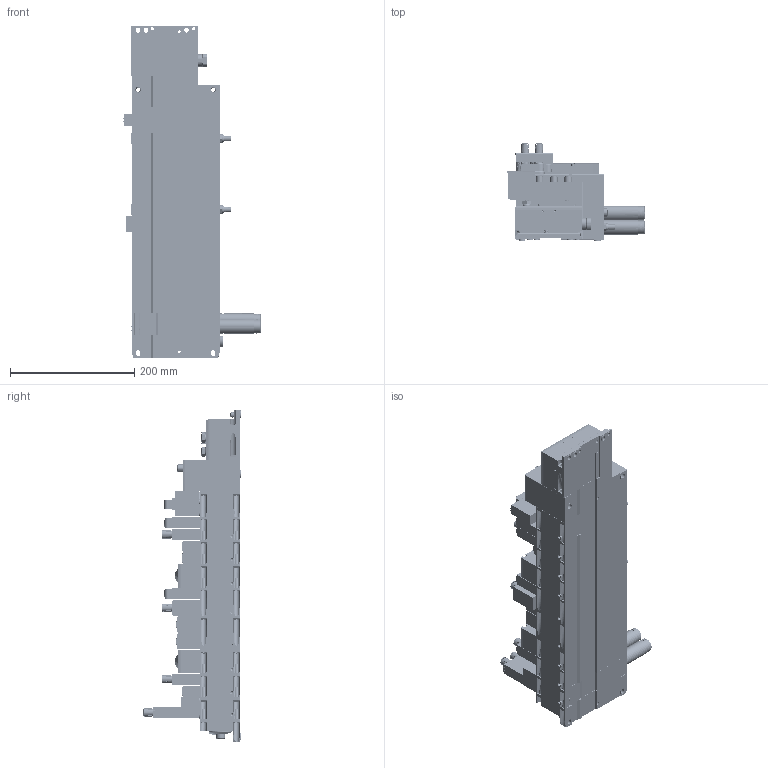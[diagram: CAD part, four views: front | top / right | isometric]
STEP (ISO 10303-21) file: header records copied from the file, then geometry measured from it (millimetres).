
FILE_DESCRIPTION( ( 'STEP AP214' ), '1' );
FILE_NAME( 'p:/temp/worker_822/temp/exporttempdir_676_247_4TPdB/format_0/8073100_51E-F36GCQP-RB.stp', '2020-08-10T13:22:07', ( 'License CC BY-ND 4.0' ), ( 'CADENAS' ), ' ', 'PARTsolutions', ' ' );
FILE_SCHEMA( ( 'AUTOMOTIVE_DESIGN { 1 0 10303 214 1 1 1 1 }' ) );
Length unit declared in the file: millimetre
Products named in the file (31): 8073100 51E-F36GCQP-RB 46P-B-YS-PVPNNGWOGWZQZYBAYQLUSWYLNBSOGWYCBYQTLUWYLNGWOGWAQIIIZQA-CSJLLCSJLLJL; HI_8082878 VABA-S6-1-X2-3V-CB---(EPL); HI_8068609 VABV-S6-1Q-G38-CB1-T5---(VKPL_0); _8067405 VABF-S6-1-P5A4S2YE-G12-1T5-PA---(high); _174308 B-M5-B---(VCB); _8068913 VABV-S4-2HS-G18-CB-2T5---(VKPL_0); _3568 B-1/8---(VCB); HI_8066569 VSVA-BT-M32CS1-MYE-A2-1T5L-PA---(VT4617); _1205860 AMTE-M-LH-G18---(VCB); HI_8033450 VSVA-B-B52-ZTR-A2-1T1L---(VT462); _4105147 VAMC-B-S6-CTR---(vtsa_kappe); _8067932 VABV-S4-2HS-G18-CB-2T2---(VKPL_0); HI_539213 VABB-S4-2-WT---(VT465); HI_8104044 VABF-S6-1-P8A7-G12-CB1---(VT46); HI_8090343 VABF-S6-1-P8A7-G12-CB-DECKEL---(VT46); HI_8068912 VABV-S4-12HS-G-CB-2T5---(VKPL_0); HI_539156 VSVA-B-B52-ZD-A1-1T1L---(VT461); HI_8067940 VABV-S4-1HS-G14-CB-2T2---(VKPL_0); HI_539212 VABB-S4-1-WT---(VT464); HI_8104042 VABF-S6-1-P8A7-G12-CB---(VT46); _8067140 VABF-S4-2-V2B1-G38-CB-VH-20-A---(mechanical highp); HI_8033250 VSVA-B-P53UD-ZD-A2-1T1L---(p); _678626 M3x30; _538433 UOM-3/8; _539238 VABE-S6-1RZ-G-B1---(PL); _3569 B-1/4---(VCBE); HI_550212 CPX-M-EPL-EV---(EPL_51E); HI_550208 CPX-M-GE-EV-S-7/8-5POL---(EV); HI_1912451 CPX-FB36---(EA); _533334 AK-SUB-9/15-B---(A); _165592 ISK-M12
Assembly tree (49 placements, depth 2):
  8073100 51E-F36GCQP-RB 46P-B-YS-PVPNNGWOGWZQZYBAYQLUSWYLNBSOGWYCBYQTLUWYLNGWOGWAQIIIZQA-CSJLLCSJLLJL
    HI_8082878 VABA-S6-1-X2-3V-CB---(EPL)
    HI_8068609 VABV-S6-1Q-G38-CB1-T5---(VKPL_0)
    _8067405 VABF-S6-1-P5A4S2YE-G12-1T5-PA---(high)
    _174308 B-M5-B---(VCB)
    _8068913 VABV-S4-2HS-G18-CB-2T5---(VKPL_0)
    _3568 B-1/8---(VCB)  x2
    HI_8066569 VSVA-BT-M32CS1-MYE-A2-1T5L-PA---(VT4617)  x2
    _1205860 AMTE-M-LH-G18---(VCB)  x2
    HI_8033450 VSVA-B-B52-ZTR-A2-1T1L---(VT462)  x2
    _4105147 VAMC-B-S6-CTR---(vtsa_kappe)  x8
    _8067932 VABV-S4-2HS-G18-CB-2T2---(VKPL_0)  x2
    HI_539213 VABB-S4-2-WT---(VT465)  x3
    HI_8104044 VABF-S6-1-P8A7-G12-CB1---(VT46)
    HI_8090343 VABF-S6-1-P8A7-G12-CB-DECKEL---(VT46)  x2
    HI_8068912 VABV-S4-12HS-G-CB-2T5---(VKPL_0)
    HI_539156 VSVA-B-B52-ZD-A1-1T1L---(VT461)
    HI_8067940 VABV-S4-1HS-G14-CB-2T2---(VKPL_0)
    HI_539212 VABB-S4-1-WT---(VT464)  x2
    HI_8104042 VABF-S6-1-P8A7-G12-CB---(VT46)
    _8067140 VABF-S4-2-V2B1-G38-CB-VH-20-A---(mechanical highp)
    HI_8033250 VSVA-B-P53UD-ZD-A2-1T1L---(p)
    _678626 M3x30  x2
    _538433 UOM-3/8  x2
    _539238 VABE-S6-1RZ-G-B1---(PL)
    _3569 B-1/4---(VCBE)
    HI_550212 CPX-M-EPL-EV---(EPL_51E)
    HI_550208 CPX-M-GE-EV-S-7/8-5POL---(EV)
    HI_1912451 CPX-FB36---(EA)
    _533334 AK-SUB-9/15-B---(A)
    _165592 ISK-M12  x2
Bounding box: 220.3 x 156.24 x 533.8 mm (x, y, z)
Volume: 5879885.9 mm3; surface area: 888842.8 mm2
Topology: 49 solids, 49 shells, 5545 faces, 14251 edges, 9336 vertices
Faces by surface type: plane 3214, cylinder 1725, cone 505, torus 83, bspline 15, sphere 3
Full cylindrical faces by diameter (mm): 1 x15, 1.1 x8, 1.5 x5, 2 x5, 2.459 x8, 2.5 x2, 2.7 x2, 2.8 x6, 3 x6, 3.2 x10, 3.242 x32, 3.3 x19, 3.4 x10, 4 x19, 4.05 x2, 4.134 x60, 4.3 x11, 4.5 x1, 5 x47, 5.2 x36, 5.5 x10, 5.6 x2, 5.8 x8, 6 x16, 6.4 x5, 6.5 x2, 6.6 x7, 7 x4, 7.2 x2, 7.5 x8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
Entity records: 148342 total; most frequent: CARTESIAN_POINT 22442, DIRECTION 19898, ORIENTED_EDGE 17834, EDGE_CURVE 8917, AXIS2_PLACEMENT_3D 7217, VERTEX_POINT 6380, LINE 5464, VECTOR 5464
